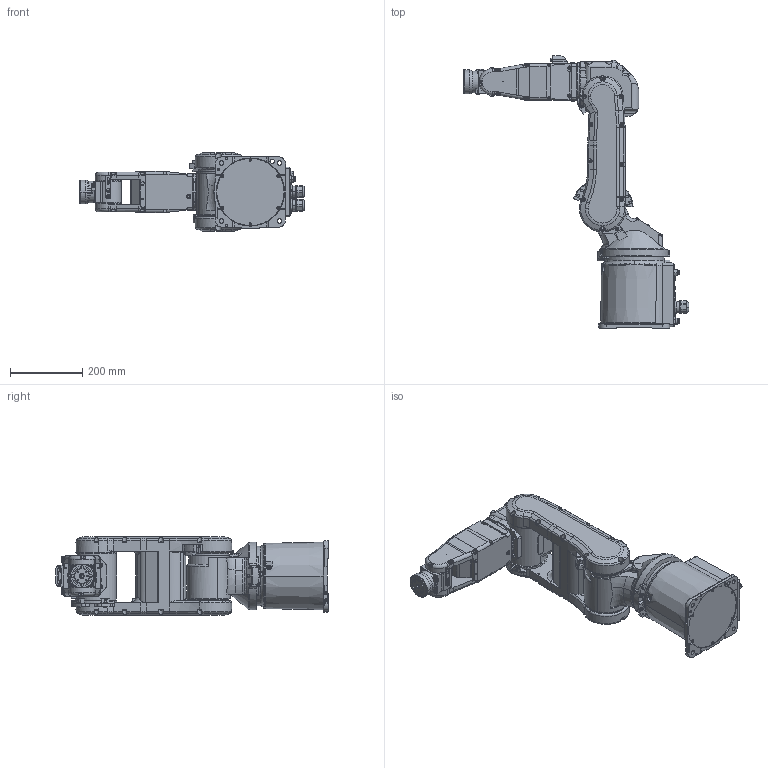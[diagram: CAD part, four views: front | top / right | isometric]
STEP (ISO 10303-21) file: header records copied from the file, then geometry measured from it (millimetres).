
FILE_DESCRIPTION( ( '' ), '1' );
FILE_NAME( '//expscmdclustefs.cadenas.external/client_exchange/iodir/jobs/output/wkb51546420_no0/STEP/S5_A701CW_2_14b.stp', '2012-11-23T13:06:45', ( '' ), ( '' ), ' ', ' ', ' ' );
FILE_SCHEMA( ( 'automotive_design' ) );
Length unit declared in the file: millimetre
Products named in the file (7): 1; 2; 3; 4; 5; 6; 7
Bounding box: 623.2 x 752 x 218 mm (x, y, z)
Volume: 19500709.1 mm3; surface area: 1011838.3 mm2
Topology: 7 solids, 7 shells, 3333 faces, 8557 edges, 5574 vertices
Faces by surface type: plane 1713, cylinder 1039, torus 330, cone 250, sphere 1
Entity records: 204614 total; most frequent: CARTESIAN_POINT 24461, DIRECTION 17878, STYLED_ITEM 17439, PRESENTATION_STYLE_ASSIGNMENT 17439, COLOUR_RGB 17439, ORIENTED_EDGE 17050, EDGE_CURVE 8525, CURVE_STYLE 8525
